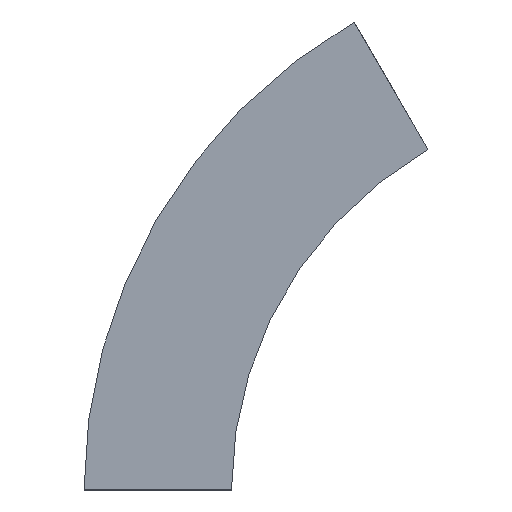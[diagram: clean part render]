
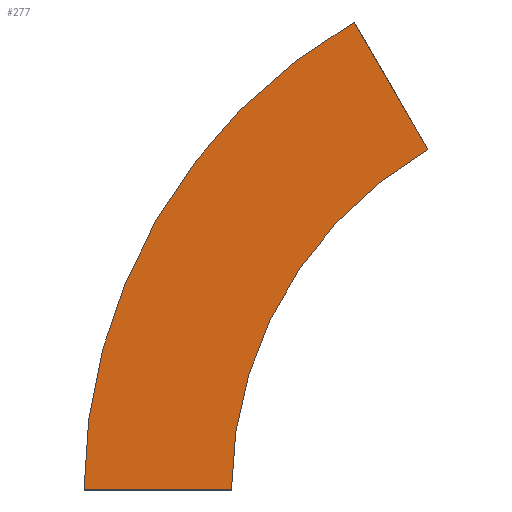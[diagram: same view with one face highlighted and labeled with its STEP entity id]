
A CAD part, left-side view. The second image highlights one B-rep face of the part: STEP entity #277.
In plain terms, the highlighted planar face has unit normal (-1, 0, 0) as drawn and (1, 0, 0) by its records, which use the part's own axes.
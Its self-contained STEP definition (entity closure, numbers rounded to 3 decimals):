
#2 = CARTESIAN_POINT ( 'NONE',  ( 0., -150., 259.808 ) ) ;
#22 = VERTEX_POINT ( 'NONE', #442 ) ;
#50 = LINE ( 'NONE', #2, #307 ) ;
#60 = CARTESIAN_POINT ( 'NONE',  ( 0., 112.5, 0. ) ) ;
#89 = DIRECTION ( 'NONE',  ( 0., 1., 0. ) ) ;
#99 = CARTESIAN_POINT ( 'NONE',  ( 0., 0., 0. ) ) ;
#113 = EDGE_CURVE ( 'NONE', #115, #22, #50, .T. ) ;
#115 = VERTEX_POINT ( 'NONE', #452 ) ;
#120 = DIRECTION ( 'NONE',  ( 0., 1., 0. ) ) ;
#146 = DIRECTION ( 'NONE',  ( 1., 0., 0. ) ) ;
#164 = DIRECTION ( 'NONE',  ( 1., 0., 0. ) ) ;
#170 = PLANE ( 'NONE',  #245 ) ;
#177 = CARTESIAN_POINT ( 'NONE',  ( 0., -300., 0. ) ) ;
#188 = CIRCLE ( 'NONE', #523, 412.5 ) ;
#209 = LINE ( 'NONE', #99, #540 ) ;
#211 = EDGE_LOOP ( 'NONE', ( #347, #517, #260, #557 ) ) ;
#213 = AXIS2_PLACEMENT_3D ( 'NONE', #177, #146, #223 ) ;
#223 = DIRECTION ( 'NONE',  ( 0., 1., 0. ) ) ;
#245 = AXIS2_PLACEMENT_3D ( 'NONE', #390, #291, #289 ) ;
#260 = ORIENTED_EDGE ( 'NONE', *, *, #439, .F. ) ;
#277 = ADVANCED_FACE ( 'NONE', ( #497 ), #170, .T. ) ;
#282 = VERTEX_POINT ( 'NONE', #398 ) ;
#289 = DIRECTION ( 'NONE',  ( 0., 0., -1. ) ) ;
#291 = DIRECTION ( 'NONE',  ( 1., 0., 0. ) ) ;
#294 = EDGE_CURVE ( 'NONE', #282, #455, #209, .T. ) ;
#307 = VECTOR ( 'NONE', #336, 1000. ) ;
#336 = DIRECTION ( 'NONE',  ( 0., 0.5, 0.866 ) ) ;
#338 = EDGE_CURVE ( 'NONE', #455, #22, #188, .T. ) ;
#347 = ORIENTED_EDGE ( 'NONE', *, *, #338, .T. ) ;
#390 = CARTESIAN_POINT ( 'NONE',  ( 0., 0., 0. ) ) ;
#398 = CARTESIAN_POINT ( 'NONE',  ( 0., 0., 0. ) ) ;
#439 = EDGE_CURVE ( 'NONE', #282, #115, #490, .T. ) ;
#442 = CARTESIAN_POINT ( 'NONE',  ( 0., -93.75, 357.235 ) ) ;
#452 = CARTESIAN_POINT ( 'NONE',  ( 0., -150., 259.808 ) ) ;
#455 = VERTEX_POINT ( 'NONE', #60 ) ;
#490 = CIRCLE ( 'NONE', #213, 300. ) ;
#497 = FACE_OUTER_BOUND ( 'NONE', #211, .T. ) ;
#517 = ORIENTED_EDGE ( 'NONE', *, *, #113, .F. ) ;
#523 = AXIS2_PLACEMENT_3D ( 'NONE', #525, #164, #120 ) ;
#525 = CARTESIAN_POINT ( 'NONE',  ( 0., -300., 0. ) ) ;
#540 = VECTOR ( 'NONE', #89, 1000. ) ;
#557 = ORIENTED_EDGE ( 'NONE', *, *, #294, .T. ) ;
